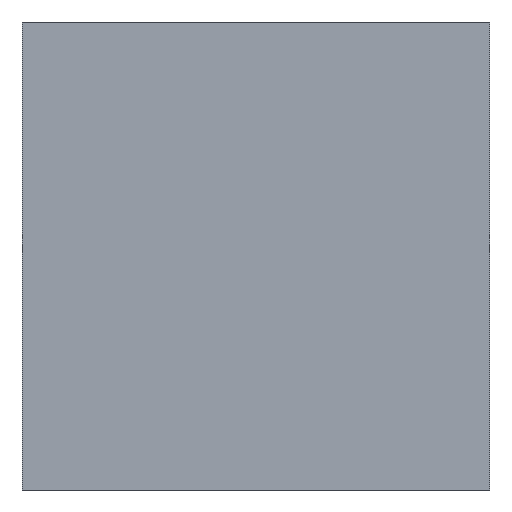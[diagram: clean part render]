
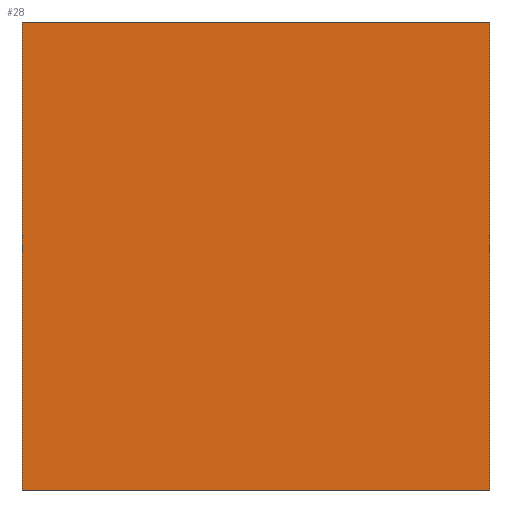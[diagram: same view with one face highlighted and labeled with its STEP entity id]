
A CAD part, front view. The second image highlights one B-rep face of the part: STEP entity #28.
In plain terms, the highlighted planar face has unit normal (0, -1, 0).
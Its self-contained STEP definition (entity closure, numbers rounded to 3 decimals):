
#28=ADVANCED_FACE('',(#34),#186,.T.);
#34=FACE_OUTER_BOUND('',#40,.T.);
#40=EDGE_LOOP('',(#58,#59,#60,#61));
#58=ORIENTED_EDGE('',*,*,#136,.F.);
#59=ORIENTED_EDGE('',*,*,#133,.F.);
#60=ORIENTED_EDGE('',*,*,#130,.F.);
#61=ORIENTED_EDGE('',*,*,#126,.F.);
#66=PCURVE('',#182,#90);
#70=PCURVE('',#183,#94);
#74=PCURVE('',#184,#98);
#78=PCURVE('',#185,#102);
#82=PCURVE('',#186,#106);
#83=PCURVE('',#186,#107);
#84=PCURVE('',#186,#108);
#85=PCURVE('',#186,#109);
#90=DEFINITIONAL_REPRESENTATION('',(#139),#313);
#94=DEFINITIONAL_REPRESENTATION('',(#147),#313);
#98=DEFINITIONAL_REPRESENTATION('',(#154),#313);
#102=DEFINITIONAL_REPRESENTATION('',(#161),#313);
#106=DEFINITIONAL_REPRESENTATION('',(#166),#313);
#107=DEFINITIONAL_REPRESENTATION('',(#167),#313);
#108=DEFINITIONAL_REPRESENTATION('',(#168),#313);
#109=DEFINITIONAL_REPRESENTATION('',(#169),#313);
#114=SURFACE_CURVE('',#138,(#66,#85),.PCURVE_S1.);
#118=SURFACE_CURVE('',#146,(#70,#84),.PCURVE_S1.);
#121=SURFACE_CURVE('',#153,(#74,#83),.PCURVE_S1.);
#124=SURFACE_CURVE('',#160,(#78,#82),.PCURVE_S1.);
#126=EDGE_CURVE('',#174,#175,#114,.T.);
#130=EDGE_CURVE('',#175,#178,#118,.T.);
#133=EDGE_CURVE('',#178,#180,#121,.T.);
#136=EDGE_CURVE('',#180,#174,#124,.T.);
#138=B_SPLINE_CURVE_WITH_KNOTS('',1,(#240,#241),.UNSPECIFIED.,.F.,.F.,(2,
2),(-200.,-150.),.UNSPECIFIED.);
#139=B_SPLINE_CURVE_WITH_KNOTS('',1,(#242,#243),.UNSPECIFIED.,.F.,.F.,(2,
2),(-200.,-150.),.UNSPECIFIED.);
#146=B_SPLINE_CURVE_WITH_KNOTS('',1,(#256,#257),.UNSPECIFIED.,.F.,.F.,(2,
2),(-150.,-100.),.UNSPECIFIED.);
#147=B_SPLINE_CURVE_WITH_KNOTS('',1,(#258,#259),.UNSPECIFIED.,.F.,.F.,(2,
2),(-150.,-100.),.UNSPECIFIED.);
#153=B_SPLINE_CURVE_WITH_KNOTS('',1,(#270,#271),.UNSPECIFIED.,.F.,.F.,(2,
2),(-100.,-50.),.UNSPECIFIED.);
#154=B_SPLINE_CURVE_WITH_KNOTS('',1,(#272,#273),.UNSPECIFIED.,.F.,.F.,(2,
2),(-100.,-50.),.UNSPECIFIED.);
#160=B_SPLINE_CURVE_WITH_KNOTS('',1,(#284,#285),.UNSPECIFIED.,.F.,.F.,(2,
2),(-50.,0.),.UNSPECIFIED.);
#161=B_SPLINE_CURVE_WITH_KNOTS('',1,(#286,#287),.UNSPECIFIED.,.F.,.F.,(2,
2),(-50.,0.),.UNSPECIFIED.);
#166=B_SPLINE_CURVE_WITH_KNOTS('',1,(#296,#297),.UNSPECIFIED.,.F.,.F.,(2,
2),(-50.,0.),.UNSPECIFIED.);
#167=B_SPLINE_CURVE_WITH_KNOTS('',1,(#298,#299),.UNSPECIFIED.,.F.,.F.,(2,
2),(-100.,-50.),.UNSPECIFIED.);
#168=B_SPLINE_CURVE_WITH_KNOTS('',1,(#300,#301),.UNSPECIFIED.,.F.,.F.,(2,
2),(-150.,-100.),.UNSPECIFIED.);
#169=B_SPLINE_CURVE_WITH_KNOTS('',1,(#302,#303),.UNSPECIFIED.,.F.,.F.,(2,
2),(-200.,-150.),.UNSPECIFIED.);
#174=VERTEX_POINT('',#232);
#175=VERTEX_POINT('',#233);
#178=VERTEX_POINT('',#236);
#180=VERTEX_POINT('',#238);
#182=PLANE('',#208);
#183=PLANE('',#209);
#184=PLANE('',#210);
#185=PLANE('',#211);
#186=PLANE('',#212);
#208=AXIS2_PLACEMENT_3D('',#226,#217,$);
#209=AXIS2_PLACEMENT_3D('',#227,#218,$);
#210=AXIS2_PLACEMENT_3D('',#228,#219,$);
#211=AXIS2_PLACEMENT_3D('',#229,#220,$);
#212=AXIS2_PLACEMENT_3D('',#230,#221,$);
#217=DIRECTION('',(-1.,0.,0.));
#218=DIRECTION('',(0.,0.,1.));
#219=DIRECTION('',(1.,0.,0.));
#220=DIRECTION('',(0.,0.,-1.));
#221=DIRECTION('',(0.,-1.,0.));
#226=CARTESIAN_POINT('',(810.,355.,-40.));
#227=CARTESIAN_POINT('',(810.,355.,0.));
#228=CARTESIAN_POINT('',(850.,355.,0.));
#229=CARTESIAN_POINT('',(850.,355.,-40.));
#230=CARTESIAN_POINT('',(850.,355.,-40.));
#232=CARTESIAN_POINT('',(810.,355.,-40.));
#233=CARTESIAN_POINT('',(810.,355.,0.));
#236=CARTESIAN_POINT('',(850.,355.,0.));
#238=CARTESIAN_POINT('',(850.,355.,-40.));
#240=CARTESIAN_POINT('',(810.,355.,-40.));
#241=CARTESIAN_POINT('',(810.,355.,0.));
#242=CARTESIAN_POINT('',(-200.,0.));
#243=CARTESIAN_POINT('',(-150.,0.));
#256=CARTESIAN_POINT('',(810.,355.,0.));
#257=CARTESIAN_POINT('',(850.,355.,0.));
#258=CARTESIAN_POINT('',(-150.,0.));
#259=CARTESIAN_POINT('',(-100.,0.));
#270=CARTESIAN_POINT('',(850.,355.,0.));
#271=CARTESIAN_POINT('',(850.,355.,-40.));
#272=CARTESIAN_POINT('',(-100.,0.));
#273=CARTESIAN_POINT('',(-50.,0.));
#284=CARTESIAN_POINT('',(850.,355.,-40.));
#285=CARTESIAN_POINT('',(810.,355.,-40.));
#286=CARTESIAN_POINT('',(-50.,0.));
#287=CARTESIAN_POINT('',(0.,0.));
#296=CARTESIAN_POINT('',(0.,-40.));
#297=CARTESIAN_POINT('',(0.,0.));
#298=CARTESIAN_POINT('',(40.,-40.));
#299=CARTESIAN_POINT('',(0.,-40.));
#300=CARTESIAN_POINT('',(40.,0.));
#301=CARTESIAN_POINT('',(40.,-40.));
#302=CARTESIAN_POINT('',(0.,0.));
#303=CARTESIAN_POINT('',(40.,0.));
#313=(
GEOMETRIC_REPRESENTATION_CONTEXT(2)
PARAMETRIC_REPRESENTATION_CONTEXT()
REPRESENTATION_CONTEXT('pspace','')
);
